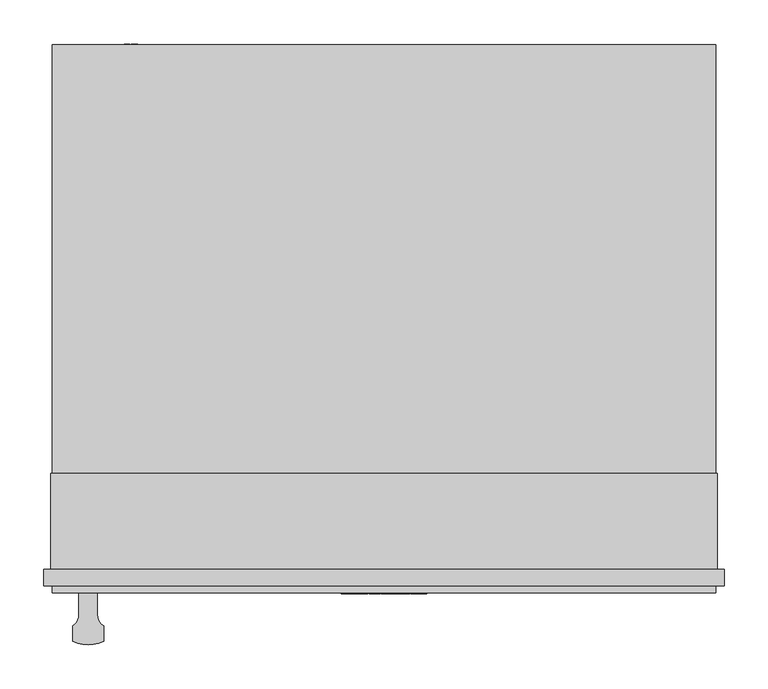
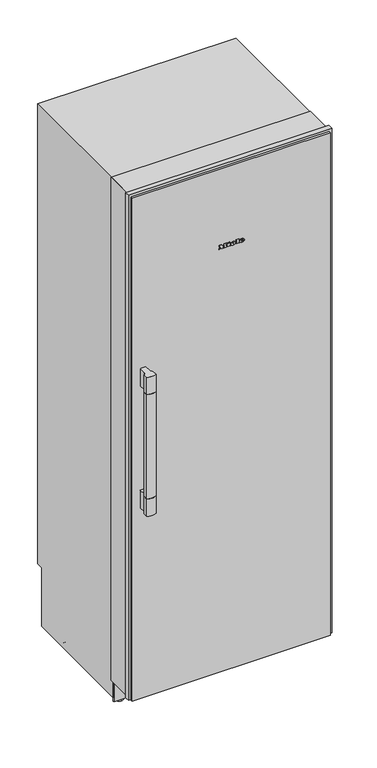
"""IFC4 building model written with IfcOpenShell, lengths in millimetres: proxy geometry, 11502700_USA_K2802SF : 36280211_USA_11502700_K2802SF."""

from ifc_helpers import new_model, si_unit, point, frame, frame_2d, origin, place, context, project, spatial, polyline, circle_curve, ellipse_curve, trimmed, segment, composite_curve, outline, extrude, faceted_brep, source, transform, mapped, element, save
from ifc_brep_helpers import plane_surface, cylinder_surface, revolved_surface, extruded_surface, advanced_brep


def specialty_equipment_fa46b359(model_context):
    return source(origin(), model_context, "Body", "SolidModel", [
        extrude(outline(polyline([(-367.0, 68.0), (367.0, 68.0), (367.0, 21.0), (-367.0, 21.0), (-367.0, 68.0)])), frame((0.0, 0.0, 265.0), z_axis=(0.0, 0.0, 1.0), x_axis=(1.0, 0.0, 0.0)), (0.0, 0.0, 1.0), 1771.0),
        extrude(outline(polyline([(-213.5, 50.0), (213.5, 50.0), (213.5, 21.0), (-213.5, 21.0), (-213.5, 50.0)])), frame((0.0, 0.0, 2036.0), z_axis=(0.0, 0.0, 1.0), x_axis=(1.0, 0.0, 0.0)), (0.0, 0.0, 1.0), 56.0),
        extrude(outline(polyline([(265.0, 21.0), (265.0, 0.0), (265.0, -21.0), (224.0, -21.0), (224.0, -6.5), (99.0, -6.5), (99.0, 0.0), (99.0, 6.5), (224.0, 6.5), (224.0, 21.0), (265.0, 21.0)])), frame((0.0, 21.0, 0.0), z_axis=(0.0, 1.0, 0.0), x_axis=(0.0, 0.0, 1.0)), (0.0, 0.0, 1.0), 54.0),
        extrude(outline(polyline([(-378.0, 21.0), (378.0, 21.0), (378.0, 0.0), (-378.0, 0.0), (-378.0, 21.0)])), frame((0.0, 0.0, 90.0), z_axis=(0.0, 0.0, 1.0), x_axis=(1.0, 0.0, 0.0)), (0.0, 0.0, 1.0), 2023.0),
        advanced_brep(
        [(-326.5, 0.0, 928.0), (-347.5, 0.0, 928.0), (-347.5, -24.4390599, 928.0), (-354.5, -37.4390599, 928.0), (-354.5, -55.0, 928.0), (-337.0, -59.0, 928.0), (-319.5, -55.0, 928.0), (-319.5, -37.4390599, 928.0), (-326.5, -24.4390599, 928.0), (-319.5, -37.4390599, 858.0), (-319.5, -55.0, 858.0), (-337.0, -59.0, 858.0), (-354.5, -55.0, 858.0), (-354.5, -37.4390599, 858.0), (-347.5, -24.4390599, 858.0), (-347.5, 0.0, 858.0), (-326.5, 0.0, 858.0), (-326.5, -24.4390599, 858.0)],
        [
            (0, 1),
            (1, 2),
            (2, 3, circle_curve(frame((-363.0714286, -24.4390599, 928.0), z_axis=(0.0, 0.0, -1.0), x_axis=(-1.0, 0.0, 0.0)), 15.5714286)),
            (3, 4),
            (4, 5, circle_curve(frame((-337.0, -18.71875, 928.0), z_axis=(0.0, 0.0, 1.0), x_axis=(-1.0, 0.0, 0.0)), 40.28125)),
            (5, 6, circle_curve(frame((-337.0, -18.71875, 928.0), z_axis=(0.0, 0.0, 1.0), x_axis=(-1.0, 0.0, 0.0)), 40.28125)),
            (6, 7),
            (7, 8, circle_curve(frame((-310.9285714, -24.4390599, 928.0), z_axis=(0.0, 0.0, -1.0), x_axis=(-1.0, 0.0, 0.0)), 15.5714286)),
            (8, 0),
            (9, 10),
            (10, 11, circle_curve(frame((-337.0, -18.71875, 858.0), z_axis=(0.0, 0.0, -1.0), x_axis=(-1.0, 0.0, 0.0)), 40.28125)),
            (11, 12, circle_curve(frame((-337.0, -18.71875, 858.0), z_axis=(0.0, 0.0, -1.0), x_axis=(-1.0, 0.0, 0.0)), 40.28125)),
            (12, 13),
            (13, 14, circle_curve(frame((-363.0714286, -24.4390599, 858.0), z_axis=(0.0, 0.0, 1.0), x_axis=(-1.0, 0.0, 0.0)), 15.5714286)),
            (14, 15),
            (15, 16),
            (16, 17),
            (17, 9, circle_curve(frame((-310.9285714, -24.4390599, 858.0), z_axis=(0.0, 0.0, 1.0), x_axis=(-1.0, 0.0, 0.0)), 15.5714286)),
            (0, 16),
            (15, 1),
            (3, 13),
            (12, 4),
            (6, 10),
            (9, 7),
            (14, 2),
            (8, 17),
        ],
        [
            plane_surface(frame((-354.5, 0.0, 928.0), z_axis=(0.0, 0.0, 1.0), x_axis=(-1.0, 0.0, 0.0))),
            plane_surface(frame((-354.5, 0.0, 858.0), z_axis=(0.0, 0.0, -1.0), x_axis=(1.0, 0.0, 0.0))),
            plane_surface(frame((-319.5, 0.0, 928.0), z_axis=(0.0, 1.0, 0.0), x_axis=(0.0, 0.0, -1.0))),
            plane_surface(frame((-354.5, 0.0, 928.0), z_axis=(-1.0, 0.0, 0.0), x_axis=(0.0, 0.0, -1.0))),
            plane_surface(frame((-319.5, -59.0, 928.0), z_axis=(1.0, 0.0, 0.0), x_axis=(0.0, 0.0, -1.0))),
            plane_surface(frame((-347.5, -24.4390599, 1418.0), z_axis=(-1.0, 0.0, 0.0), x_axis=(0.0, 0.0, -1.0))),
            plane_surface(frame((-326.5, 0.0, 1418.0), z_axis=(1.0, 0.0, 0.0), x_axis=(0.0, 0.0, -1.0))),
            cylinder_surface(frame((-337.0, -18.71875, 858.0), z_axis=(0.0, 0.0, -1.0), x_axis=(-1.0, 0.0, 0.0)), 40.28125),
            revolved_surface(polyline([(-378.6428572, -24.4390599, 928.0), (-378.6428572, -24.4390599, 858.0)]), (-363.0714286, -24.4390599, 858.0), (0.0, 0.0, 1.0)),
            revolved_surface(polyline([(-326.5, -24.4390599, 928.0), (-326.5, -24.4390599, 858.0)]), (-310.9285714, -24.4390599, 858.0), (0.0, 0.0, 1.0)),
        ],
        [
            (0, [[1, 2, 3, 4, 5, 6, 7, 8, 9]]),
            (1, [[10, 11, 12, 13, 14, 15, 16, 17, 18]]),
            (2, [[-1, 19, -16, 20]]),
            (3, [[-4, 21, -13, 22]]),
            (4, [[-7, 23, -10, 24]]),
            (5, [[25, -2, -20, -15]]),
            (6, [[26, -17, -19, -9]]),
            (7, [[-5, -22, -12, -11, -23, -6]]),
            (8, [[-25, -14, -21, -3]]),
            (9, [[-26, -8, -24, -18]]),
        ],
    ),
        advanced_brep(
        [(-319.5, -37.4390599, 928.0), (-319.5, -55.0, 928.0), (-337.0, -59.0, 928.0), (-354.5, -55.0, 928.0), (-354.5, -37.4390599, 928.0), (-352.6400312, -36.0, 928.0), (-321.3599688, -36.0, 928.0), (-321.3599688, -36.0, 1348.0), (-352.6400312, -36.0, 1348.0), (-354.5, -37.4390599, 1348.0), (-354.5, -55.0, 1348.0), (-337.0, -59.0, 1348.0), (-319.5, -55.0, 1348.0), (-319.5, -37.4390599, 1348.0)],
        [
            (0, 1),
            (1, 2, circle_curve(frame((-337.0, -18.71875, 928.0), z_axis=(0.0, 0.0, -1.0), x_axis=(-1.0, 0.0, 0.0)), 40.28125)),
            (2, 3, circle_curve(frame((-337.0, -18.71875, 928.0), z_axis=(0.0, 0.0, -1.0), x_axis=(-1.0, 0.0, 0.0)), 40.28125)),
            (3, 4),
            (4, 5, circle_curve(frame((-363.0714286, -24.4390599, 928.0), z_axis=(0.0, 0.0, 1.0), x_axis=(-1.0, 0.0, 0.0)), 15.5714286)),
            (5, 6),
            (6, 0, circle_curve(frame((-310.9285714, -24.4390599, 928.0), z_axis=(0.0, 0.0, 1.0), x_axis=(-1.0, 0.0, 0.0)), 15.5714286)),
            (7, 8),
            (8, 9, circle_curve(frame((-363.0714286, -24.4390599, 1348.0), z_axis=(0.0, 0.0, -1.0), x_axis=(-1.0, 0.0, 0.0)), 15.5714286)),
            (9, 10),
            (10, 11, circle_curve(frame((-337.0, -18.71875, 1348.0), z_axis=(0.0, 0.0, 1.0), x_axis=(-1.0, 0.0, 0.0)), 40.28125)),
            (11, 12, circle_curve(frame((-337.0, -18.71875, 1348.0), z_axis=(0.0, 0.0, 1.0), x_axis=(-1.0, 0.0, 0.0)), 40.28125)),
            (12, 13),
            (13, 7, circle_curve(frame((-310.9285714, -24.4390599, 1348.0), z_axis=(0.0, 0.0, -1.0), x_axis=(-1.0, 0.0, 0.0)), 15.5714286)),
            (0, 13),
            (12, 1),
            (3, 10),
            (9, 4),
            (5, 8),
            (7, 6),
        ],
        [
            plane_surface(frame((-319.5, -36.0, 928.0), z_axis=(0.0, 0.0, -1.0), x_axis=(0.0, -1.0, 0.0))),
            plane_surface(frame((-319.5, -36.0, 1348.0), z_axis=(0.0, 0.0, 1.0), x_axis=(0.0, 1.0, 0.0))),
            plane_surface(frame((-319.5, -36.0, 928.0), z_axis=(1.0, 0.0, 0.0), x_axis=(0.0, 0.0, 1.0))),
            plane_surface(frame((-354.5, -59.0, 928.0), z_axis=(-1.0, 0.0, 0.0), x_axis=(0.0, 0.0, 1.0))),
            plane_surface(frame((-354.5, -36.0, 928.0), z_axis=(0.0, 1.0, 0.0), x_axis=(0.0, 0.0, 1.0))),
            cylinder_surface(frame((-337.0, -18.71875, 858.0), z_axis=(0.0, 0.0, -1.0), x_axis=(-1.0, 0.0, 0.0)), 40.28125),
            revolved_surface(polyline([(-378.6428572, -24.4390599, 1348.0), (-378.6428572, -24.4390599, 928.0)]), (-363.0714286, -24.4390599, 858.0), (0.0, 0.0, 1.0)),
            revolved_surface(polyline([(-326.5, -24.4390599, 1348.0), (-326.5, -24.4390599, 928.0)]), (-310.9285714, -24.4390599, 858.0), (0.0, 0.0, 1.0)),
        ],
        [
            (0, [[1, 2, 3, 4, 5, 6, 7]]),
            (1, [[8, 9, 10, 11, 12, 13, 14]]),
            (2, [[-1, 15, -13, 16]]),
            (3, [[-4, 17, -10, 18]]),
            (4, [[-6, 19, -8, 20]]),
            (5, [[-2, -16, -12, -11, -17, -3]]),
            (6, [[-5, -18, -9, -19]]),
            (7, [[-7, -20, -14, -15]]),
        ],
    ),
        advanced_brep(
        [(-319.5, -37.4390599, 1348.0), (-319.5, -55.0, 1348.0), (-337.0, -59.0, 1348.0), (-354.5, -55.0, 1348.0), (-354.5, -37.4390599, 1348.0), (-347.5, -24.4390599, 1348.0), (-347.5, 0.0, 1348.0), (-326.5, 0.0, 1348.0), (-326.5, -24.4390599, 1348.0), (-326.5, 0.0, 1418.0), (-347.5, 0.0, 1418.0), (-347.5, -24.4390599, 1418.0), (-354.5, -37.4390599, 1418.0), (-354.5, -55.0, 1418.0), (-337.0, -59.0, 1418.0), (-319.5, -55.0, 1418.0), (-319.5, -37.4390599, 1418.0), (-326.5, -24.4390599, 1418.0)],
        [
            (0, 1),
            (1, 2, circle_curve(frame((-337.0, -18.71875, 1348.0), z_axis=(0.0, 0.0, -1.0), x_axis=(-1.0, 0.0, 0.0)), 40.28125)),
            (2, 3, circle_curve(frame((-337.0, -18.71875, 1348.0), z_axis=(0.0, 0.0, -1.0), x_axis=(-1.0, 0.0, 0.0)), 40.28125)),
            (3, 4),
            (4, 5, circle_curve(frame((-363.0714286, -24.4390599, 1348.0), z_axis=(0.0, 0.0, 1.0), x_axis=(-1.0, 0.0, 0.0)), 15.5714286)),
            (5, 6),
            (6, 7),
            (7, 8),
            (8, 0, circle_curve(frame((-310.9285714, -24.4390599, 1348.0), z_axis=(0.0, 0.0, 1.0), x_axis=(-1.0, 0.0, 0.0)), 15.5714286)),
            (9, 10),
            (10, 11),
            (11, 12, circle_curve(frame((-363.0714286, -24.4390599, 1418.0), z_axis=(0.0, 0.0, -1.0), x_axis=(-1.0, 0.0, 0.0)), 15.5714286)),
            (12, 13),
            (13, 14, circle_curve(frame((-337.0, -18.71875, 1418.0), z_axis=(0.0, 0.0, 1.0), x_axis=(-1.0, 0.0, 0.0)), 40.28125)),
            (14, 15, circle_curve(frame((-337.0, -18.71875, 1418.0), z_axis=(0.0, 0.0, 1.0), x_axis=(-1.0, 0.0, 0.0)), 40.28125)),
            (15, 16),
            (16, 17, circle_curve(frame((-310.9285714, -24.4390599, 1418.0), z_axis=(0.0, 0.0, -1.0), x_axis=(-1.0, 0.0, 0.0)), 15.5714286)),
            (17, 9),
            (6, 10),
            (9, 7),
            (3, 13),
            (12, 4),
            (0, 16),
            (15, 1),
            (5, 11),
            (17, 8),
        ],
        [
            plane_surface(frame((-354.5, 0.0, 1348.0), z_axis=(0.0, 0.0, -1.0), x_axis=(1.0, 0.0, 0.0))),
            plane_surface(frame((-354.5, 0.0, 1418.0), z_axis=(0.0, 0.0, 1.0), x_axis=(-1.0, 0.0, 0.0))),
            plane_surface(frame((-319.5, 0.0, 1418.0), z_axis=(0.0, 1.0, 0.0), x_axis=(0.0, 0.0, -1.0))),
            plane_surface(frame((-354.5, 0.0, 1418.0), z_axis=(-1.0, 0.0, 0.0), x_axis=(0.0, 0.0, -1.0))),
            plane_surface(frame((-319.5, -59.0, 1418.0), z_axis=(1.0, 0.0, 0.0), x_axis=(0.0, 0.0, -1.0))),
            plane_surface(frame((-347.5, -24.4390599, 1418.0), z_axis=(-1.0, 0.0, 0.0), x_axis=(0.0, 0.0, -1.0))),
            plane_surface(frame((-326.5, 0.0, 1418.0), z_axis=(1.0, 0.0, 0.0), x_axis=(0.0, 0.0, -1.0))),
            cylinder_surface(frame((-337.0, -18.71875, 858.0), z_axis=(0.0, 0.0, -1.0), x_axis=(-1.0, 0.0, 0.0)), 40.28125),
            revolved_surface(polyline([(-378.6428572, -24.4390599, 1418.0), (-378.6428572, -24.4390599, 1348.0)]), (-363.0714286, -24.4390599, 858.0), (0.0, 0.0, 1.0)),
            revolved_surface(polyline([(-326.5, -24.4390599, 1418.0), (-326.5, -24.4390599, 1348.0)]), (-310.9285714, -24.4390599, 858.0), (0.0, 0.0, 1.0)),
        ],
        [
            (0, [[1, 2, 3, 4, 5, 6, 7, 8, 9]]),
            (1, [[10, 11, 12, 13, 14, 15, 16, 17, 18]]),
            (2, [[-7, 19, -10, 20]]),
            (3, [[-4, 21, -13, 22]]),
            (4, [[-1, 23, -16, 24]]),
            (5, [[25, -11, -19, -6]]),
            (6, [[26, -8, -20, -18]]),
            (7, [[-2, -24, -15, -14, -21, -3]]),
            (8, [[-25, -5, -22, -12]]),
            (9, [[-26, -17, -23, -9]]),
        ],
    ),
        advanced_brep(
        [(38.22, -1.0, 1795.792), (38.22, -1.0, 1797.408), (48.924, -1.0, 1797.408), (30.3, -1.0, 1797.408), (34.7, -1.0, 1792.0), (48.652, -1.0, 1795.792), (43.82, -1.0, 1795.792), (40.012, -1.0, 1794.0), (38.22, -1.0, 1799.456), (38.22, -1.0, 1801.2), (40.956, -1.0, 1801.2), (40.956, -1.0, 1799.456), (38.22, 0.0, 1795.792), (40.012, 0.0, 1794.0), (43.82, 0.0, 1795.792), (48.652, 0.0, 1795.792), (34.7, 0.0, 1792.0), (30.3, 0.0, 1797.408), (48.924, 0.0, 1797.408), (38.22, 0.0, 1797.408), (38.22, 0.0, 1799.456), (40.956, 0.0, 1799.456), (40.956, 0.0, 1801.2), (38.22, 0.0, 1801.2)],
        [
            (0, 1),
            (1, 2),
            (2, 3, ellipse_curve(frame((39.612, -1.0, 1797.408), z_axis=(0.0, -1.0, 0.0), x_axis=(-1.0, 0.0, 0.0)), 9.312, 7.696)),
            (3, 4, circle_curve(frame((36.4920873, -1.0, 1797.952), z_axis=(0.0, -1.0, 0.0), x_axis=(0.0, 0.0, -1.0)), 6.2159376)),
            (4, 5, circle_curve(frame((39.4255872, -1.0, 1802.176), z_axis=(0.0, -1.0, 0.0), x_axis=(0.0, 0.0, -1.0)), 11.2197215)),
            (5, 6),
            (6, 7, circle_curve(frame((40.7941176, -1.0, 1797.28), z_axis=(0.0, 1.0, 0.0), x_axis=(0.0, 0.0, -1.0)), 3.3719591)),
            (7, 0, circle_curve(frame((40.012, -1.0, 1795.792), z_axis=(0.0, 1.0, 0.0), x_axis=(0.0, 0.0, -1.0)), 1.792)),
            (8, 9),
            (9, 10, circle_curve(frame((39.588, -1.0, 1801.2), z_axis=(0.0, 1.0, 0.0), x_axis=(0.0, 0.0, -1.0)), 1.368)),
            (10, 11),
            (11, 8),
            (12, 13, circle_curve(frame((40.012, 0.0, 1795.792), z_axis=(0.0, -1.0, 0.0), x_axis=(0.0, 0.0, -1.0)), 1.792)),
            (13, 14, circle_curve(frame((40.7941176, 0.0, 1797.28), z_axis=(0.0, -1.0, 0.0), x_axis=(0.0, 0.0, -1.0)), 3.3719591)),
            (14, 15),
            (15, 16, circle_curve(frame((39.4255872, 0.0, 1802.176), z_axis=(0.0, 1.0, 0.0), x_axis=(0.0, 0.0, -1.0)), 11.2197215)),
            (16, 17, circle_curve(frame((36.4920873, 0.0, 1797.952), z_axis=(0.0, 1.0, 0.0), x_axis=(0.0, 0.0, -1.0)), 6.2159376)),
            (17, 18, ellipse_curve(frame((39.612, 0.0, 1797.408), z_axis=(0.0, 1.0, 0.0), x_axis=(-1.0, 0.0, 0.0)), 9.312, 7.696)),
            (18, 19),
            (19, 12),
            (20, 21),
            (21, 22),
            (22, 23, circle_curve(frame((39.588, 0.0, 1801.2), z_axis=(0.0, -1.0, 0.0), x_axis=(0.0, 0.0, -1.0)), 1.368)),
            (23, 20),
            (0, 12),
            (19, 1),
            (18, 2),
            (5, 15),
            (14, 6),
            (17, 3),
            (13, 7),
            (16, 4),
            (8, 20),
            (23, 9),
            (22, 10),
            (21, 11),
        ],
        [
            plane_surface(frame((38.22, -1.0, 1797.408), z_axis=(0.0, -1.0, 0.0), x_axis=(0.0, 0.0, 1.0))),
            plane_surface(frame((38.22, 0.0, 1797.408), z_axis=(0.0, 1.0, 0.0), x_axis=(0.0, 0.0, -1.0))),
            plane_surface(frame((38.22, -1.0, 1795.792), z_axis=(1.0, 0.0, 0.0), x_axis=(0.0, 1.0, 0.0))),
            plane_surface(frame((38.22, -1.0, 1797.408), z_axis=(0.0, 0.0, -1.0), x_axis=(0.0, 1.0, 0.0))),
            plane_surface(frame((48.652, -1.0, 1795.792), z_axis=(0.0, 0.0, 1.0), x_axis=(0.0, 1.0, 0.0))),
            extruded_surface(trimmed(ellipse_curve(frame((39.612, 1.0, 1797.408), z_axis=(0.0, -1.0, 0.0), x_axis=(-1.0, 0.0, 0.0)), 9.312, 7.696), [point((48.924, 1.0, 1797.408))], [point((30.3, 1.0, 1797.408))], True, "CARTESIAN"), (0.0, -1.0, 0.0), 1.0),
            revolved_surface(polyline([(40.7941176, 0.0, 1793.9080409), (40.7941176, -1.0, 1793.9080409)]), (40.7941176, 0.0, 1797.28), (0.0, 1.0, 0.0)),
            revolved_surface(polyline([(40.012, 0.0, 1794.0), (40.012, -1.0, 1794.0)]), (40.012, 0.0, 1795.792), (0.0, 1.0, 0.0)),
            cylinder_surface(frame((36.4920873, 0.0, 1797.952), z_axis=(0.0, -1.0, 0.0), x_axis=(0.0, 0.0, -1.0)), 6.2159376),
            cylinder_surface(frame((39.4255872, 0.0, 1802.176), z_axis=(0.0, -1.0, 0.0), x_axis=(0.0, 0.0, -1.0)), 11.2197215),
            plane_surface(frame((38.22, -1.0, 1799.456), z_axis=(1.0, 0.0, 0.0), x_axis=(0.0, 1.0, 0.0))),
            revolved_surface(polyline([(39.588, 0.0, 1799.832), (39.588, -1.0, 1799.832)]), (39.588, 0.0, 1801.2), (0.0, 1.0, 0.0)),
            plane_surface(frame((40.956, -1.0, 1801.2), z_axis=(-1.0, 0.0, 0.0), x_axis=(0.0, 1.0, 0.0))),
            plane_surface(frame((40.956, -1.0, 1799.456), z_axis=(0.0, 0.0, 1.0), x_axis=(0.0, 1.0, 0.0))),
        ],
        [
            (0, [[1, 2, 3, 4, 5, 6, 7, 8], [9, 10, 11, 12]]),
            (1, [[13, 14, 15, 16, 17, 18, 19, 20], [21, 22, 23, 24]]),
            (2, [[-1, 25, -20, 26]]),
            (3, [[-2, -26, -19, 27]]),
            (4, [[-6, 28, -15, 29]]),
            (5, [[-3, -27, -18, 30]]),
            (6, [[-7, -29, -14, 31]]),
            (7, [[-8, -31, -13, -25]]),
            (8, [[-4, -30, -17, 32]]),
            (9, [[-5, -32, -16, -28]]),
            (10, [[-9, 33, -24, 34]]),
            (11, [[-10, -34, -23, 35]]),
            (12, [[-11, -35, -22, 36]]),
            (13, [[-12, -36, -21, -33]]),
        ],
    ),
        advanced_brep(
        [(4.828, -1.0, 1795.792), (4.828, -1.0, 1797.408), (15.532, -1.0, 1797.408), (-3.092, -1.0, 1797.408), (1.308, -1.0, 1792.0), (15.26, -1.0, 1795.792), (10.428, -1.0, 1795.792), (6.62, -1.0, 1794.0), (4.828, -1.0, 1799.456), (4.828, -1.0, 1801.2), (7.564, -1.0, 1801.2), (7.564, -1.0, 1799.456), (4.828, 0.0, 1795.792), (6.62, 0.0, 1794.0), (10.428, 0.0, 1795.792), (15.26, 0.0, 1795.792), (1.308, 0.0, 1792.0), (-3.092, 0.0, 1797.408), (15.532, 0.0, 1797.408), (4.828, 0.0, 1797.408), (4.828, 0.0, 1799.456), (7.564, 0.0, 1799.456), (7.564, 0.0, 1801.2), (4.828, 0.0, 1801.2)],
        [
            (0, 1),
            (1, 2),
            (2, 3, ellipse_curve(frame((6.22, -1.0, 1797.408), z_axis=(0.0, -1.0, 0.0), x_axis=(-1.0, 0.0, 0.0)), 9.312, 7.696)),
            (3, 4, circle_curve(frame((3.1000873, -1.0, 1797.952), z_axis=(0.0, -1.0, 0.0), x_axis=(0.0, 0.0, -1.0)), 6.2159376)),
            (4, 5, circle_curve(frame((6.0335872, -1.0, 1802.176), z_axis=(0.0, -1.0, 0.0), x_axis=(0.0, 0.0, -1.0)), 11.2197215)),
            (5, 6),
            (6, 7, circle_curve(frame((7.4021176, -1.0, 1797.28), z_axis=(0.0, 1.0, 0.0), x_axis=(0.0, 0.0, -1.0)), 3.3719591)),
            (7, 0, circle_curve(frame((6.62, -1.0, 1795.792), z_axis=(0.0, 1.0, 0.0), x_axis=(0.0, 0.0, -1.0)), 1.792)),
            (8, 9),
            (9, 10, circle_curve(frame((6.196, -1.0, 1801.2), z_axis=(0.0, 1.0, 0.0), x_axis=(0.0, 0.0, -1.0)), 1.368)),
            (10, 11),
            (11, 8),
            (12, 13, circle_curve(frame((6.62, 0.0, 1795.792), z_axis=(0.0, -1.0, 0.0), x_axis=(0.0, 0.0, -1.0)), 1.792)),
            (13, 14, circle_curve(frame((7.4021176, 0.0, 1797.28), z_axis=(0.0, -1.0, 0.0), x_axis=(0.0, 0.0, -1.0)), 3.3719591)),
            (14, 15),
            (15, 16, circle_curve(frame((6.0335872, 0.0, 1802.176), z_axis=(0.0, 1.0, 0.0), x_axis=(0.0, 0.0, -1.0)), 11.2197215)),
            (16, 17, circle_curve(frame((3.1000873, 0.0, 1797.952), z_axis=(0.0, 1.0, 0.0), x_axis=(0.0, 0.0, -1.0)), 6.2159376)),
            (17, 18, ellipse_curve(frame((6.22, 0.0, 1797.408), z_axis=(0.0, 1.0, 0.0), x_axis=(-1.0, 0.0, 0.0)), 9.312, 7.696)),
            (18, 19),
            (19, 12),
            (20, 21),
            (21, 22),
            (22, 23, circle_curve(frame((6.196, 0.0, 1801.2), z_axis=(0.0, -1.0, 0.0), x_axis=(0.0, 0.0, -1.0)), 1.368)),
            (23, 20),
            (0, 12),
            (19, 1),
            (18, 2),
            (5, 15),
            (14, 6),
            (17, 3),
            (13, 7),
            (16, 4),
            (8, 20),
            (23, 9),
            (22, 10),
            (21, 11),
        ],
        [
            plane_surface(frame((4.828, -1.0, 1797.408), z_axis=(0.0, -1.0, 0.0), x_axis=(0.0, 0.0, 1.0))),
            plane_surface(frame((4.828, 0.0, 1797.408), z_axis=(0.0, 1.0, 0.0), x_axis=(0.0, 0.0, -1.0))),
            plane_surface(frame((4.828, -1.0, 1795.792), z_axis=(1.0, 0.0, 0.0), x_axis=(0.0, 1.0, 0.0))),
            plane_surface(frame((4.828, -1.0, 1797.408), z_axis=(0.0, 0.0, -1.0), x_axis=(0.0, 1.0, 0.0))),
            plane_surface(frame((15.26, -1.0, 1795.792), z_axis=(0.0, 0.0, 1.0), x_axis=(0.0, 1.0, 0.0))),
            extruded_surface(trimmed(ellipse_curve(frame((6.22, 1.0, 1797.408), z_axis=(0.0, -1.0, 0.0), x_axis=(-1.0, 0.0, 0.0)), 9.312, 7.696), [point((15.532, 1.0, 1797.408))], [point((-3.092, 1.0, 1797.408))], True, "CARTESIAN"), (0.0, -1.0, 0.0), 1.0),
            revolved_surface(polyline([(7.4021176, 0.0, 1793.9080409), (7.4021176, -1.0, 1793.9080409)]), (7.4021176, 0.0, 1797.28), (0.0, 1.0, 0.0)),
            revolved_surface(polyline([(6.62, 0.0, 1794.0), (6.62, -1.0, 1794.0)]), (6.62, 0.0, 1795.792), (0.0, 1.0, 0.0)),
            cylinder_surface(frame((3.1000873, 0.0, 1797.952), z_axis=(0.0, -1.0, 0.0), x_axis=(0.0, 0.0, -1.0)), 6.2159376),
            cylinder_surface(frame((6.0335872, 0.0, 1802.176), z_axis=(0.0, -1.0, 0.0), x_axis=(0.0, 0.0, -1.0)), 11.2197215),
            plane_surface(frame((4.828, -1.0, 1799.456), z_axis=(1.0, 0.0, 0.0), x_axis=(0.0, 1.0, 0.0))),
            revolved_surface(polyline([(6.196, 0.0, 1799.832), (6.196, -1.0, 1799.832)]), (6.196, 0.0, 1801.2), (0.0, 1.0, 0.0)),
            plane_surface(frame((7.564, -1.0, 1801.2), z_axis=(-1.0, 0.0, 0.0), x_axis=(0.0, 1.0, 0.0))),
            plane_surface(frame((7.564, -1.0, 1799.456), z_axis=(0.0, 0.0, 1.0), x_axis=(0.0, 1.0, 0.0))),
        ],
        [
            (0, [[1, 2, 3, 4, 5, 6, 7, 8], [9, 10, 11, 12]]),
            (1, [[13, 14, 15, 16, 17, 18, 19, 20], [21, 22, 23, 24]]),
            (2, [[-1, 25, -20, 26]]),
            (3, [[-2, -26, -19, 27]]),
            (4, [[-6, 28, -15, 29]]),
            (5, [[-3, -27, -18, 30]]),
            (6, [[-7, -29, -14, 31]]),
            (7, [[-8, -31, -13, -25]]),
            (8, [[-4, -30, -17, 32]]),
            (9, [[-5, -32, -16, -28]]),
            (10, [[-9, 33, -24, 34]]),
            (11, [[-10, -34, -23, 35]]),
            (12, [[-11, -35, -22, 36]]),
            (13, [[-12, -36, -21, -33]]),
        ],
    ),
        extrude(outline(polyline([(1807.056, -12.66), (1804.464, -11.444), (1806.992, -6.02), (1809.584, -7.22), (1807.056, -12.66)])), frame((0.0, -1.0, 0.0), z_axis=(0.0, 1.0, 0.0), x_axis=(0.0, 0.0, 1.0)), (0.0, 0.0, 1.0), 1.0),
        extrude(outline(polyline([(1804.112, -16.612), (1801.248, -16.612), (1801.248, -14.708), (1794.688, -14.708), (1794.688, -16.612), (1792.0, -16.612), (1792.0, -3.988), (1794.688, -3.988), (1794.688, -5.844), (1804.112, -5.844), (1804.112, -16.612)])), frame((0.0, -1.0, 0.0), z_axis=(0.0, 1.0, 0.0), x_axis=(0.0, 0.0, 1.0)), (0.0, 0.0, 1.0), 1.0),
        extrude(outline(polyline([(1805.392, 16.428), (1805.392, 18.348), (1794.688, 18.348), (1794.688, 16.428), (1792.0, 16.428), (1792.0, 29.404), (1794.688, 29.404), (1794.688, 27.436), (1808.0, 27.436), (1808.0, 16.428), (1805.392, 16.428)])), frame((0.0, -1.0, 0.0), z_axis=(0.0, 1.0, 0.0), x_axis=(0.0, 0.0, 1.0)), (0.0, 0.0, 1.0), 1.0),
        extrude(outline(polyline([(1805.392, -48.5), (1805.392, -46.564), (1794.688, -46.564), (1794.688, -48.5), (1792.0, -48.5), (1792.0, -41.46), (1794.688, -41.46), (1794.688, -43.38), (1801.4431247, -43.38), (1792.0, -36.228), (1801.8152223, -29.044), (1794.688, -29.044), (1794.688, -31.012), (1792.0, -31.012), (1792.0, -18.244), (1794.688, -18.244), (1794.688, -20.276), (1805.392, -20.276), (1805.392, -18.244), (1808.0, -18.244), (1808.0, -27.988), (1802.0, -32.66), (1808.0, -37.348), (1808.0, -48.5), (1805.392, -48.5)])), frame((0.0, -1.0, 0.0), z_axis=(0.0, 1.0, 0.0), x_axis=(0.0, 0.0, 1.0)), (0.0, 0.0, 1.0), 1.0),
        extrude(outline(polyline([(108.0, 1998.0), (565.0, 1998.0), (565.0, 1791.0), (496.0, 1791.0), (468.0, 1868.0), (222.3701279, 1868.0), (177.3150905, 1940.0880598), (108.0, 1949.0), (108.0, 1998.0)])), frame((-332.0, 0.0, 0.0), z_axis=(1.0, 0.0, 0.0), x_axis=(0.0, 1.0, 0.0)), (0.0, 0.0, 1.0), 664.0),
        extrude(outline(polyline([(217.9886114, 1875.0), (216.809433, 1875.0), (179.6921935, 1934.4), (180.8713719, 1934.4), (217.9886114, 1875.0)])), frame((-69.0, 0.0, 0.0), z_axis=(1.0, 0.0, 0.0), x_axis=(0.0, 1.0, 0.0)), (0.0, 0.0, 1.0), 138.0),
        extrude(outline(polyline([(2095.0, 371.5), (2095.0, 216.5), (2047.0, 216.5), (2047.0, 222.5), (2036.5, 222.5), (2036.5, 337.5), (2047.0, 337.5), (2047.0, 371.5), (2095.0, 371.5)])), frame((0.0, 21.0, 0.0), z_axis=(0.0, 1.0, 0.0), x_axis=(0.0, 0.0, 1.0)), (0.0, 0.0, 1.0), 47.0),
        extrude(outline(polyline([(254.0, 216.5), (206.0, 216.5), (206.0, 371.5), (254.0, 371.5), (254.0, 337.5), (264.0, 337.5), (264.0, 222.5), (254.0, 222.5), (254.0, 216.5)])), frame((0.0, 21.0, 0.0), z_axis=(0.0, 1.0, 0.0), x_axis=(0.0, 0.0, 1.0)), (0.0, 0.0, 1.0), 54.0),
        extrude(outline(polyline([(99.0373308, -287.7645771), (97.7615342, -287.7645771), (97.7615342, -281.8195541), (94.7968516, -281.8195541), (94.7968516, -287.469579), (93.5246295, -287.469579), (93.5246295, -281.8415693), (90.2570046, -281.8415693), (90.2570046, -287.9619689), (88.9546219, -287.9619689), (88.9546219, -280.5443524), (99.0373308, -280.5443524), (99.0373308, -287.7645771)])), frame((0.0, 625.0, 0.0), z_axis=(0.0, 1.0, 0.0), x_axis=(0.0, 0.0, 1.0)), (0.0, 0.0, 1.0), 1.0),
        extrude(outline(polyline([(99.0458, -291.0619704), (90.2663944, -291.0619704), (90.2663944, -296.1145879), (89.0134802, -296.1145879), (89.0134802, -289.8423809), (99.0458, -289.8423809), (99.0458, -291.0619704)])), frame((0.0, 625.0, 0.0), z_axis=(0.0, 1.0, 0.0), x_axis=(0.0, 0.0, 1.0)), (0.0, 0.0, 1.0), 1.0),
        extrude(outline(composite_curve([segment(trimmed(circle_curve(frame_2d((94.0, -288.0)), 7.5), [point((86.5, -288.0))], [point((101.5, -288.0))], False, "CARTESIAN"), True, "CONTINUOUS"), segment(trimmed(circle_curve(frame_2d((94.0, -288.0)), 7.5), [point((101.5, -288.0))], [point((86.5, -288.0))], False, "CARTESIAN"), True, "CONTINUOUS")], self_intersect=False)), frame((0.0, 598.0, 0.0), z_axis=(0.0, 1.0, 0.0), x_axis=(0.0, 0.0, 1.0)), (0.0, 0.0, 1.0), 27.0),
        extrude(outline(polyline([(-378.0, 125.0), (378.0, 125.0), (378.0, 120.0), (-378.0, 120.0), (-378.0, 125.0)])), frame((0.0, 0.0, 14.0), z_axis=(0.0, 0.0, 1.0), x_axis=(1.0, 0.0, 0.0)), (0.0, 0.0, 1.0), 83.0),
        advanced_brep(
        [(-344.0, 160.0, 0.0), (-344.0, 130.0, 0.0), (-344.0, 160.0, 7.0), (-344.0, 130.0, 7.0), (-344.0, 149.7, 7.0), (-344.0, 140.3, 7.0), (-344.0, 149.7, 28.0), (-344.0, 140.3, 28.0)],
        [
            (0, 1, circle_curve(frame((-344.0, 145.0, 0.0), z_axis=(0.0, 0.0, -1.0), x_axis=(1.0, 0.0, 0.0)), 15.0)),
            (1, 0, circle_curve(frame((-344.0, 145.0, 0.0), z_axis=(0.0, 0.0, -1.0), x_axis=(1.0, 0.0, 0.0)), 15.0)),
            (2, 3, circle_curve(frame((-344.0, 145.0, 7.0), z_axis=(0.0, 0.0, 1.0), x_axis=(1.0, 0.0, 0.0)), 15.0)),
            (3, 2, circle_curve(frame((-344.0, 145.0, 7.0), z_axis=(0.0, 0.0, 1.0), x_axis=(1.0, 0.0, 0.0)), 15.0)),
            (4, 5, circle_curve(frame((-344.0, 145.0, 7.0), z_axis=(0.0, 0.0, -1.0), x_axis=(0.0, -1.0, 0.0)), 4.7)),
            (5, 4, circle_curve(frame((-344.0, 145.0, 7.0), z_axis=(0.0, 0.0, -1.0), x_axis=(0.0, -1.0, 0.0)), 4.7)),
            (0, 2),
            (3, 1),
            (6, 7, circle_curve(frame((-344.0, 145.0, 28.0), z_axis=(0.0, 0.0, 1.0), x_axis=(0.0, -1.0, 0.0)), 4.7)),
            (7, 6, circle_curve(frame((-344.0, 145.0, 28.0), z_axis=(0.0, 0.0, 1.0), x_axis=(0.0, -1.0, 0.0)), 4.7)),
            (7, 5),
            (4, 6),
        ],
        [
            plane_surface(frame((-329.0, 145.0, 0.0), z_axis=(0.0, 0.0, -1.0), x_axis=(0.0, -1.0, 0.0))),
            plane_surface(frame((-329.0, 145.0, 7.0), z_axis=(0.0, 0.0, 1.0), x_axis=(0.0, 1.0, 0.0))),
            cylinder_surface(frame((-344.0, 145.0, 7.0), z_axis=(0.0, 0.0, -1.0), x_axis=(1.0, 0.0, 0.0)), 15.0),
            plane_surface(frame((-344.0, 140.3, 28.0), z_axis=(0.0, 0.0, 1.0), x_axis=(1.0, 0.0, 0.0))),
            cylinder_surface(frame((-344.0, 145.0, 28.0), z_axis=(0.0, 0.0, -1.0), x_axis=(0.0, -1.0, 0.0)), 4.7),
        ],
        [
            (0, [[1, 2]]),
            (1, [[3, 4], [5, 6]]),
            (2, [[-1, 7, -4, 8]]),
            (2, [[-2, -8, -3, -7]]),
            (3, [[9, 10]]),
            (4, [[-10, 11, -5, 12]]),
            (4, [[-9, -12, -6, -11]]),
        ],
    ),
        advanced_brep(
        [(344.0, 160.0, 0.0), (344.0, 130.0, 0.0), (344.0, 160.0, 7.0), (344.0, 130.0, 7.0), (344.0, 149.7, 7.0), (344.0, 140.3, 7.0), (344.0, 149.7, 28.0), (344.0, 140.3, 28.0)],
        [
            (0, 1, circle_curve(frame((344.0, 145.0, 0.0), z_axis=(0.0, 0.0, -1.0), x_axis=(1.0, 0.0, 0.0)), 15.0)),
            (1, 0, circle_curve(frame((344.0, 145.0, 0.0), z_axis=(0.0, 0.0, -1.0), x_axis=(1.0, 0.0, 0.0)), 15.0)),
            (2, 3, circle_curve(frame((344.0, 145.0, 7.0), z_axis=(0.0, 0.0, 1.0), x_axis=(1.0, 0.0, 0.0)), 15.0)),
            (3, 2, circle_curve(frame((344.0, 145.0, 7.0), z_axis=(0.0, 0.0, 1.0), x_axis=(1.0, 0.0, 0.0)), 15.0)),
            (4, 5, circle_curve(frame((344.0, 145.0, 7.0), z_axis=(0.0, 0.0, -1.0), x_axis=(0.0, -1.0, 0.0)), 4.7)),
            (5, 4, circle_curve(frame((344.0, 145.0, 7.0), z_axis=(0.0, 0.0, -1.0), x_axis=(0.0, -1.0, 0.0)), 4.7)),
            (0, 2),
            (3, 1),
            (6, 7, circle_curve(frame((344.0, 145.0, 28.0), z_axis=(0.0, 0.0, 1.0), x_axis=(0.0, -1.0, 0.0)), 4.7)),
            (7, 6, circle_curve(frame((344.0, 145.0, 28.0), z_axis=(0.0, 0.0, 1.0), x_axis=(0.0, -1.0, 0.0)), 4.7)),
            (7, 5),
            (4, 6),
        ],
        [
            plane_surface(frame((-329.0, 145.0, 0.0), z_axis=(0.0, 0.0, -1.0), x_axis=(0.0, -1.0, 0.0))),
            plane_surface(frame((-329.0, 145.0, 7.0), z_axis=(0.0, 0.0, 1.0), x_axis=(0.0, 1.0, 0.0))),
            cylinder_surface(frame((344.0, 145.0, 7.0), z_axis=(0.0, 0.0, -1.0), x_axis=(1.0, 0.0, 0.0)), 15.0),
            plane_surface(frame((-344.0, 140.3, 28.0), z_axis=(0.0, 0.0, 1.0), x_axis=(1.0, 0.0, 0.0))),
            cylinder_surface(frame((344.0, 145.0, 28.0), z_axis=(0.0, 0.0, -1.0), x_axis=(0.0, -1.0, 0.0)), 4.7),
        ],
        [
            (0, [[1, 2]]),
            (1, [[3, 4], [5, 6]]),
            (2, [[-1, 7, -4, 8]]),
            (2, [[-2, -8, -3, -7]]),
            (3, [[9, 10]]),
            (4, [[-10, 11, -5, 12]]),
            (4, [[-9, -12, -6, -11]]),
        ],
    ),
        advanced_brep(
        [(378.0, 68.0, 2114.0), (378.0, 68.0, 267.0), (378.0, 75.0, 267.0), (378.0, 75.0, 97.0), (378.0, 125.0, 97.0), (378.0, 125.0, 28.0), (378.0, 598.0, 28.0), (378.0, 598.0, 263.0), (378.0, 625.0, 263.0), (378.0, 625.0, 2114.0), (-378.0, 68.0, 2114.0), (-378.0, 625.0, 2114.0), (-378.0, 625.0, 263.0), (-378.0, 598.0, 263.0), (-378.0, 598.0, 28.0), (-378.0, 125.0, 28.0), (-378.0, 125.0, 97.0), (-378.0, 75.0, 97.0), (-378.0, 75.0, 267.0), (-378.0, 68.0, 267.0), (318.0, 598.0, 28.0), (318.0, 598.0, 14.0), (-318.0, 598.0, 14.0), (-318.0, 598.0, 28.0), (318.0, 125.0, 14.0), (-318.0, 125.0, 14.0), (-318.0, 125.0, 28.0), (318.0, 125.0, 28.0), (332.0, 68.0, 1998.0), (332.0, 68.0, 343.0), (-332.0, 68.0, 343.0), (-332.0, 68.0, 1998.0), (332.0, 565.0, 1998.0), (-332.0, 565.0, 1998.0), (-332.0, 565.0, 343.0), (332.0, 565.0, 343.0), (-336.5, 223.8193473, 28.0), (-355.5, 223.8193473, 28.0), (-355.5, 174.1806527, 28.0), (-336.5, 174.1806527, 28.0), (-356.0, 546.8193473, 28.0), (-356.0, 497.1806527, 28.0), (-340.0, 497.1806527, 28.0), (-340.0, 546.8193473, 28.0), (355.5, 174.1806527, 28.0), (355.5, 223.8193473, 28.0), (336.5, 223.8193473, 28.0), (336.5, 174.1806527, 28.0), (340.0, 546.8193473, 28.0), (340.0, 497.1806527, 28.0), (356.0, 497.1806527, 28.0), (356.0, 546.8193473, 28.0), (-336.5, 224.0, 25.0), (-336.5, 174.0, 25.0), (-355.5, 174.0, 25.0), (-355.5, 224.0, 25.0), (-336.5, 199.0, 25.0), (-355.5, 199.0, 25.0), (355.5, 199.0, 25.0), (355.5, 174.0, 25.0), (355.5, 224.0, 25.0), (336.5, 224.0, 25.0), (336.5, 174.0, 25.0), (336.5, 199.0, 25.0), (-356.0, 547.0, 25.0), (-356.0, 497.0, 25.0), (-356.0, 522.0, 25.0), (-340.0, 547.0, 25.0), (-340.0, 497.0, 25.0), (-340.0, 522.0, 25.0), (340.0, 547.0, 25.0), (340.0, 497.0, 25.0), (340.0, 522.0, 25.0), (356.0, 547.0, 25.0), (356.0, 497.0, 25.0), (356.0, 522.0, 25.0)],
        [
            (0, 1),
            (1, 2),
            (2, 3),
            (3, 4),
            (4, 5),
            (5, 6),
            (6, 7),
            (7, 8),
            (8, 9),
            (9, 0),
            (10, 11),
            (11, 12),
            (12, 13),
            (13, 14),
            (14, 15),
            (15, 16),
            (16, 17),
            (17, 18),
            (18, 19),
            (19, 10),
            (9, 11),
            (10, 0),
            (8, 12),
            (7, 13),
            (6, 20),
            (20, 21),
            (21, 22),
            (22, 23),
            (23, 14),
            (21, 24),
            (24, 25),
            (25, 22),
            (4, 16),
            (15, 26),
            (26, 25),
            (24, 27),
            (27, 5),
            (3, 17),
            (2, 18),
            (1, 19),
            (28, 29),
            (29, 30),
            (30, 31),
            (31, 28),
            (32, 33),
            (33, 34),
            (34, 35),
            (35, 32),
            (35, 29),
            (28, 32),
            (34, 30),
            (33, 31),
            (23, 26),
            (36, 37),
            (37, 38),
            (38, 39),
            (39, 36),
            (40, 41),
            (41, 42),
            (42, 43),
            (43, 40),
            (27, 20),
            (44, 45),
            (45, 46),
            (46, 47),
            (47, 44),
            (48, 49),
            (49, 50),
            (50, 51),
            (51, 48),
            (52, 53, circle_curve(frame((-336.5, 199.0, 25.0), z_axis=(-1.0, 0.0, 0.0), x_axis=(0.0, -1.0, 0.0)), 25.0)),
            (53, 54),
            (54, 55, circle_curve(frame((-355.5, 199.0, 25.0), z_axis=(1.0, 0.0, 0.0), x_axis=(0.0, -1.0, 0.0)), 25.0)),
            (55, 52),
            (53, 39, circle_curve(frame((-336.5, 199.0, 25.0), z_axis=(-1.0, 0.0, 0.0), x_axis=(0.0, -1.0, 0.0)), 25.0)),
            (38, 54, circle_curve(frame((-355.5, 199.0, 25.0), z_axis=(1.0, 0.0, 0.0), x_axis=(0.0, -1.0, 0.0)), 25.0)),
            (55, 37, circle_curve(frame((-355.5, 199.0, 25.0), z_axis=(1.0, 0.0, 0.0), x_axis=(0.0, -1.0, 0.0)), 25.0)),
            (36, 52, circle_curve(frame((-336.5, 199.0, 25.0), z_axis=(-1.0, 0.0, 0.0), x_axis=(0.0, -1.0, 0.0)), 25.0)),
            (52, 56),
            (56, 53),
            (54, 57),
            (57, 55),
            (58, 59),
            (59, 60, circle_curve(frame((355.5, 199.0, 25.0), z_axis=(1.0, 0.0, 0.0), x_axis=(0.0, -1.0, 0.0)), 25.0)),
            (60, 58),
            (60, 45, circle_curve(frame((355.5, 199.0, 25.0), z_axis=(1.0, 0.0, 0.0), x_axis=(0.0, -1.0, 0.0)), 25.0)),
            (44, 59, circle_curve(frame((355.5, 199.0, 25.0), z_axis=(1.0, 0.0, 0.0), x_axis=(0.0, -1.0, 0.0)), 25.0)),
            (61, 62, circle_curve(frame((336.5, 199.0, 25.0), z_axis=(-1.0, 0.0, 0.0), x_axis=(0.0, -1.0, 0.0)), 25.0)),
            (62, 63),
            (63, 61),
            (62, 47, circle_curve(frame((336.5, 199.0, 25.0), z_axis=(-1.0, 0.0, 0.0), x_axis=(0.0, -1.0, 0.0)), 25.0)),
            (46, 61, circle_curve(frame((336.5, 199.0, 25.0), z_axis=(-1.0, 0.0, 0.0), x_axis=(0.0, -1.0, 0.0)), 25.0)),
            (64, 65, circle_curve(frame((-356.0, 522.0, 25.0), z_axis=(-1.0, 0.0, 0.0), x_axis=(0.0, -1.0, 0.0)), 25.0)),
            (65, 66),
            (66, 64),
            (65, 41, circle_curve(frame((-356.0, 522.0, 25.0), z_axis=(-1.0, 0.0, 0.0), x_axis=(0.0, -1.0, 0.0)), 25.0)),
            (40, 64, circle_curve(frame((-356.0, 522.0, 25.0), z_axis=(-1.0, 0.0, 0.0), x_axis=(0.0, -1.0, 0.0)), 25.0)),
            (64, 67),
            (67, 68, circle_curve(frame((-340.0, 522.0, 25.0), z_axis=(-1.0, 0.0, 0.0), x_axis=(0.0, -1.0, 0.0)), 25.0)),
            (68, 65),
            (43, 67, circle_curve(frame((-340.0, 522.0, 25.0), z_axis=(-1.0, 0.0, 0.0), x_axis=(0.0, -1.0, 0.0)), 25.0)),
            (68, 42, circle_curve(frame((-340.0, 522.0, 25.0), z_axis=(-1.0, 0.0, 0.0), x_axis=(0.0, -1.0, 0.0)), 25.0)),
            (67, 69),
            (69, 68),
            (70, 71, circle_curve(frame((340.0, 522.0, 25.0), z_axis=(-1.0, 0.0, 0.0), x_axis=(0.0, -1.0, 0.0)), 25.0)),
            (71, 72),
            (72, 70),
            (71, 49, circle_curve(frame((340.0, 522.0, 25.0), z_axis=(-1.0, 0.0, 0.0), x_axis=(0.0, -1.0, 0.0)), 25.0)),
            (48, 70, circle_curve(frame((340.0, 522.0, 25.0), z_axis=(-1.0, 0.0, 0.0), x_axis=(0.0, -1.0, 0.0)), 25.0)),
            (70, 73),
            (73, 74, circle_curve(frame((356.0, 522.0, 25.0), z_axis=(-1.0, 0.0, 0.0), x_axis=(0.0, -1.0, 0.0)), 25.0)),
            (74, 71),
            (51, 73, circle_curve(frame((356.0, 522.0, 25.0), z_axis=(-1.0, 0.0, 0.0), x_axis=(0.0, -1.0, 0.0)), 25.0)),
            (74, 50, circle_curve(frame((356.0, 522.0, 25.0), z_axis=(-1.0, 0.0, 0.0), x_axis=(0.0, -1.0, 0.0)), 25.0)),
            (73, 75),
            (75, 74),
            (59, 62),
            (61, 60),
        ],
        [
            plane_surface(frame((378.0, 625.0, 2114.0), z_axis=(1.0, 0.0, 0.0), x_axis=(0.0, -1.0, 0.0))),
            plane_surface(frame((-378.0, 625.0, 2114.0), z_axis=(-1.0, 0.0, 0.0), x_axis=(0.0, 1.0, 0.0))),
            plane_surface(frame((-378.0, 68.0, 2114.0), z_axis=(0.0, 0.0, 1.0), x_axis=(1.0, 0.0, 0.0))),
            plane_surface(frame((-378.0, 625.0, 2114.0), z_axis=(0.0, 1.0, 0.0), x_axis=(1.0, 0.0, 0.0))),
            plane_surface(frame((-378.0, 625.0, 263.0), z_axis=(0.0, 0.0, -1.0), x_axis=(1.0, 0.0, 0.0))),
            plane_surface(frame((-378.0, 598.0, 263.0), z_axis=(0.0, 1.0, 0.0), x_axis=(1.0, 0.0, 0.0))),
            plane_surface(frame((-378.0, 598.0, 14.0), z_axis=(0.0, 0.0, -1.0), x_axis=(1.0, 0.0, 0.0))),
            plane_surface(frame((-378.0, 125.0, 14.0), z_axis=(0.0, -1.0, 0.0), x_axis=(1.0, 0.0, 0.0))),
            plane_surface(frame((-378.0, 125.0, 97.0), z_axis=(0.0, 0.0, -1.0), x_axis=(1.0, 0.0, 0.0))),
            plane_surface(frame((-378.0, 75.0, 97.0), z_axis=(0.0, -1.0, 0.0), x_axis=(1.0, 0.0, 0.0))),
            plane_surface(frame((-378.0, 75.0, 267.0), z_axis=(0.0, 0.0, -1.0), x_axis=(1.0, 0.0, 0.0))),
            plane_surface(frame((-378.0, 68.0, 267.0), z_axis=(0.0, -1.0, 0.0), x_axis=(1.0, 0.0, 0.0))),
            plane_surface(frame((332.0, 565.0, 1998.0), z_axis=(0.0, -1.0, 0.0), x_axis=(0.0, 0.0, -1.0))),
            plane_surface(frame((332.0, 565.0, 1998.0), z_axis=(-1.0, 0.0, 0.0), x_axis=(0.0, -1.0, 0.0))),
            plane_surface(frame((332.0, 565.0, 343.0), z_axis=(0.0, 0.0, 1.0), x_axis=(0.0, -1.0, 0.0))),
            plane_surface(frame((-332.0, 565.0, 343.0), z_axis=(1.0, 0.0, 0.0), x_axis=(0.0, -1.0, 0.0))),
            plane_surface(frame((-332.0, 565.0, 1998.0), z_axis=(0.0, 0.0, -1.0), x_axis=(0.0, -1.0, 0.0))),
            plane_surface(frame((-378.0, 625.0, 28.0), z_axis=(0.0, 0.0, -1.0), x_axis=(-1.0, 0.0, 0.0))),
            plane_surface(frame((-318.0, 125.0, 28.0), z_axis=(-1.0, 0.0, 0.0), x_axis=(0.0, 0.0, -1.0))),
            plane_surface(frame((318.0, 625.0, 28.0), z_axis=(1.0, 0.0, 0.0), x_axis=(0.0, 0.0, -1.0))),
            cylinder_surface(frame((-470.6988927, 199.0, 25.0), z_axis=(1.0, 0.0, 0.0), x_axis=(0.0, -1.0, 0.0)), 25.0),
            plane_surface(frame((-336.5, 199.0, 25.0), z_axis=(1.0, 0.0, 0.0), x_axis=(0.0, -1.0, 0.0))),
            plane_surface(frame((-355.5, 199.0, 25.0), z_axis=(-1.0, 0.0, 0.0), x_axis=(0.0, -1.0, 0.0))),
            plane_surface(frame((355.5, 199.0, 25.0), z_axis=(1.0, 0.0, 0.0), x_axis=(0.0, -1.0, 0.0))),
            plane_surface(frame((336.5, 199.0, 25.0), z_axis=(-1.0, 0.0, 0.0), x_axis=(0.0, -1.0, 0.0))),
            plane_surface(frame((-356.0, 522.0, 25.0), z_axis=(-1.0, 0.0, 0.0), x_axis=(0.0, -1.0, 0.0))),
            cylinder_surface(frame((-470.6988927, 522.0, 25.0), z_axis=(1.0, 0.0, 0.0), x_axis=(0.0, -1.0, 0.0)), 25.0),
            plane_surface(frame((-340.0, 522.0, 25.0), z_axis=(1.0, 0.0, 0.0), x_axis=(0.0, -1.0, 0.0))),
            plane_surface(frame((340.0, 522.0, 25.0), z_axis=(-1.0, 0.0, 0.0), x_axis=(0.0, -1.0, 0.0))),
            plane_surface(frame((356.0, 522.0, 25.0), z_axis=(1.0, 0.0, 0.0), x_axis=(0.0, -1.0, 0.0))),
        ],
        [
            (0, [[1, 2, 3, 4, 5, 6, 7, 8, 9, 10]]),
            (1, [[11, 12, 13, 14, 15, 16, 17, 18, 19, 20]]),
            (2, [[-10, 21, -11, 22]]),
            (3, [[-9, 23, -12, -21]]),
            (4, [[-8, 24, -13, -23]]),
            (5, [[-24, -7, 25, 26, 27, 28, 29, -14]]),
            (6, [[-27, 30, 31, 32]]),
            (7, [[33, -16, 34, 35, -31, 36, 37, -5]]),
            (8, [[-4, 38, -17, -33]]),
            (9, [[-3, 39, -18, -38]]),
            (10, [[-2, 40, -19, -39]]),
            (11, [[-1, -22, -20, -40], [41, 42, 43, 44]]),
            (12, [[45, 46, 47, 48]]),
            (13, [[-48, 49, -41, 50]]),
            (14, [[-47, 51, -42, -49]]),
            (15, [[-46, 52, -43, -51]]),
            (16, [[-45, -50, -44, -52]]),
            (17, [[53, -34, -15, -29], [54, 55, 56, 57], [58, 59, 60, 61]]),
            (17, [[62, -25, -6, -37], [63, 64, 65, 66], [67, 68, 69, 70]]),
            (18, [[-53, -28, -32, -35]]),
            (19, [[-62, -36, -30, -26]]),
            (20, [[71, 72, 73, 74]]),
            (20, [[-72, 75, -56, 76]]),
            (20, [[-74, 77, -54, 78]]),
            (21, [[-71, 79, 80]]),
            (21, [[-80, -79, -78, -57, -75]]),
            (22, [[-73, 81, 82]]),
            (22, [[-81, -76, -55, -77, -82]]),
            (23, [[83, 84, 85]]),
            (23, [[-83, -85, 86, -63, 87]]),
            (24, [[88, 89, 90]]),
            (24, [[-89, 91, -65, 92, -90]]),
            (25, [[93, 94, 95]]),
            (25, [[-94, 96, -58, 97, -95]]),
            (26, [[-93, 98, 99, 100]]),
            (26, [[-98, -97, -61, 101]]),
            (26, [[-100, 102, -59, -96]]),
            (27, [[-99, 103, 104]]),
            (27, [[-104, -103, -101, -60, -102]]),
            (28, [[105, 106, 107]]),
            (28, [[-106, 108, -67, 109, -107]]),
            (26, [[-105, 110, 111, 112]]),
            (26, [[-110, -109, -70, 113]]),
            (26, [[-112, 114, -68, -108]]),
            (29, [[-111, 115, 116]]),
            (29, [[-116, -115, -113, -69, -114]]),
            (20, [[-84, 117, -88, 118]]),
            (20, [[-117, -87, -66, -91]]),
            (20, [[-118, -92, -64, -86]]),
        ],
    ),
        faceted_brep([(-387.5, 27.0, 91.0), (-387.5, 27.0, 2123.0), (387.5, 27.0, 2123.0), (387.5, 27.0, 91.0), (379.7, 27.0, 91.0), (379.7, 27.0, 2115.0), (-379.7, 27.0, 2115.0), (-379.7, 27.0, 91.0), (378.0, 8.0, 2114.0), (378.0, 8.0, 91.0), (387.5, 8.0, 91.0), (387.5, 8.0, 2123.0), (-387.5, 8.0, 2123.0), (-387.5, 8.0, 91.0), (-378.0, 8.0, 91.0), (-378.0, 8.0, 2114.0), (378.0, 136.0, 2114.0), (378.0, 136.0, 91.0), (-378.0, 136.0, 91.0), (-378.0, 136.0, 2114.0), (-379.7, 136.0, 91.0), (379.7, 136.0, 91.0), (-379.7, 136.0, 2115.0), (379.7, 136.0, 2115.0)], [[[0, 1, 2, 3, 4, 5, 6, 7]], [[8, 9, 10, 11, 12, 13, 14, 15]], [[9, 8, 16, 17]], [[15, 14, 18, 19]], [[16, 8, 15, 19]], [[18, 14, 13, 0, 7, 20]], [[1, 0, 13, 12]], [[2, 1, 12, 11]], [[3, 2, 11, 10]], [[10, 9, 17, 21, 4, 3]], [[16, 19, 18, 20, 22, 23, 21, 17]], [[22, 20, 7, 6]], [[23, 22, 6, 5]], [[21, 23, 5, 4]]]),
    ])


if __name__ == "__main__":
    model = new_model("IFC4")
    model_context = context("Model", 3, world=origin())
    ifc_project = project(units=[si_unit("LENGTHUNIT", "METRE", prefix="MILLI")], contexts=[model_context])
    site = spatial("IfcSite", under=ifc_project)
    building = spatial("IfcBuilding", under=site)
    placement = place(None, origin())
    specialty_equipment_shape = specialty_equipment_fa46b359(model_context)
    element("IfcBuildingElementProxy", 1, Name="11502700_USA_K2802SF : 36280211_USA_11502700_K2802SF", ObjectType="11502700_USA_K2802SF : 36280211_USA_11502700_K2802SF", at=placement, inside=building, context=model_context, shape_type="MappedRepresentation", body=[
        mapped(specialty_equipment_shape, transform((0.0, 0.0, 0.0), x_axis=(1.0, 0.0, 0.0), y_axis=(0.0, 1.0, 0.0), z_axis=(0.0, 0.0, 1.0))),
    ])
    save(model, "model.ifc")
